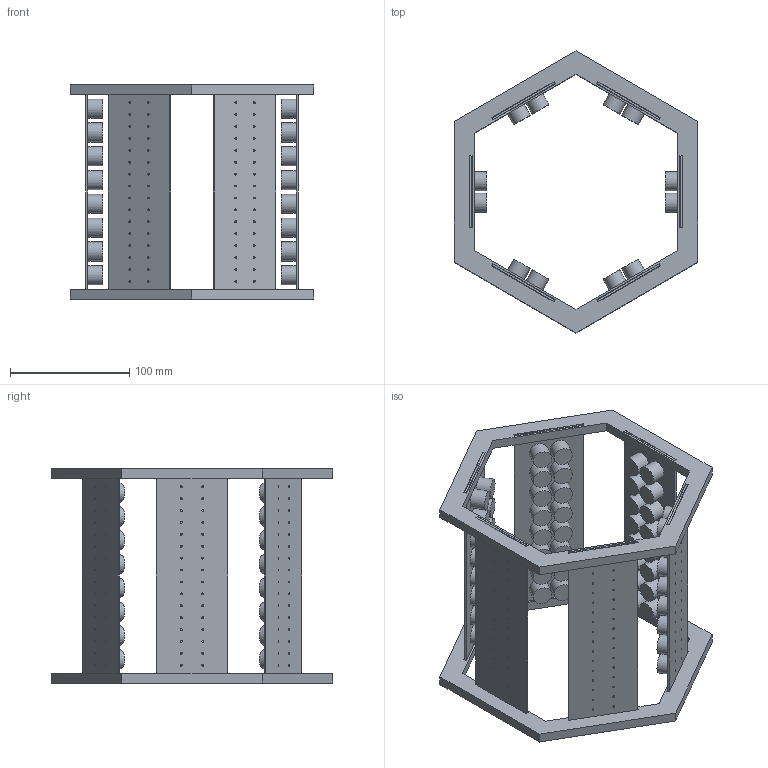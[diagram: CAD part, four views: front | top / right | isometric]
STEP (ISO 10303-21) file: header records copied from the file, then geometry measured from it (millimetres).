
FILE_DESCRIPTION(('Open CASCADE Model'),'2;1');
FILE_NAME('Open CASCADE Shape Model','2026-10-05T11:00:29',('Author'),( 'Open CASCADE'),'Open CASCADE STEP processor 7.9','Open CASCADE 7.9' ,'Unknown');
FILE_SCHEMA(('AUTOMOTIVE_DESIGN { 1 0 10303 214 1 1 1 1 }'));
Length unit declared in the file: millimetre
Products named in the file (10): tunnel_6faces; panel_6f_01; pcb_6f; tx_6f_t1; panel_6f_02; panel_6f_03; panel_6f_04; panel_6f_05; panel_6f_06; ring_6f_lower
Assembly tree (110 placements, depth 3):
  tunnel_6faces
    panel_6f_01
      pcb_6f
      tx_6f_t1  x16
    panel_6f_02
      pcb_6f
      tx_6f_t1  x16
    panel_6f_03
      pcb_6f
      tx_6f_t1  x16
    panel_6f_04
      pcb_6f
      tx_6f_t1  x16
    panel_6f_05
      pcb_6f
      tx_6f_t1  x16
    panel_6f_06
      pcb_6f
      tx_6f_t1  x16
    ring_6f_lower  x2
Bounding box: 205 x 236.71 x 180 mm (x, y, z)
Volume: 508336.5 mm3; surface area: 308188.3 mm2
Topology: 104 solids, 104 shells, 706 faces, 1494 edges, 996 vertices
Faces by surface type: cylinder 402, plane 304
Full cylindrical faces by diameter (mm): 0.8 x12, 1 x78, 1.5 x192, 3.2 x24, 16 x96
Entity records: 8213 total; most frequent: CARTESIAN_POINT 1953, DIRECTION 1128, ORIENTED_EDGE 552, PCURVE 552, DEFINITIONAL_REPRESENTATION 552, LINE 500, VECTOR 500, AXIS2_PLACEMENT_3D 313
